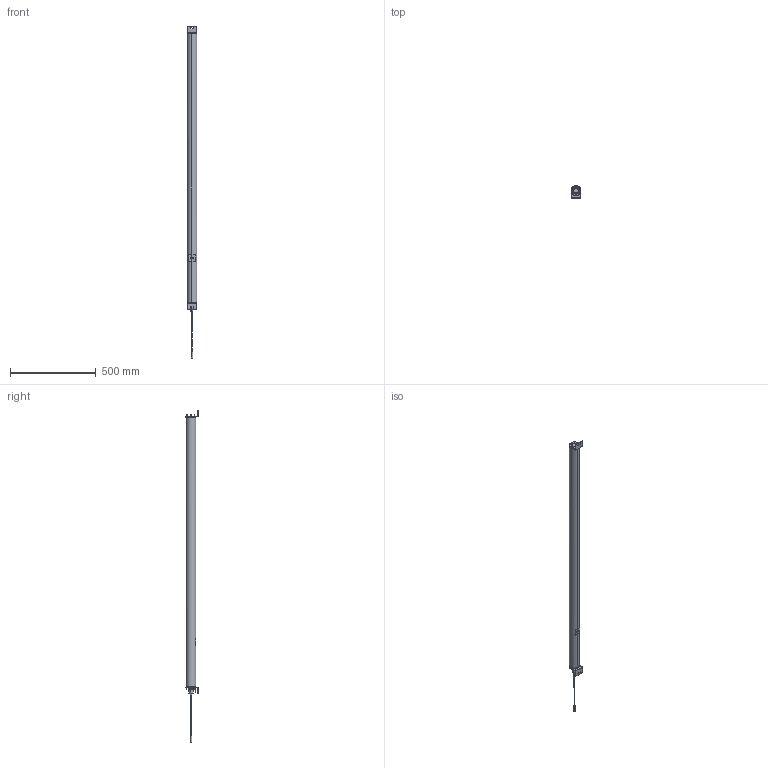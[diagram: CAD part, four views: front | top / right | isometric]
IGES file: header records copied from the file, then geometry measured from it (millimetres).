
Global section: file name: C:\ACADFILES\MG_PYLONS\CUSTOMER_FILES\MG-60-PYLON_3D_SMB_PT.igs; native system: AutoCAD-18.2s (LMS Tech) (Microsoft Windows NT Version 6.1 (x86)); preprocessor: Autodesk IGES Translator Mechanical Desktop 2011 (Feb 18 2011) from Autodesk, Inc.; date: 20140328.081233; units: inch
Bounding box: 57.29 x 69.85 x 1930.77 mm (x, y, z)
Surface area: 1197036.4 mm2 (no closed solid volume)
Topology: 0 solids, 0 shells, 1800 faces, 9329 edges, 9504 vertices
Faces by surface type: bspline 1800
